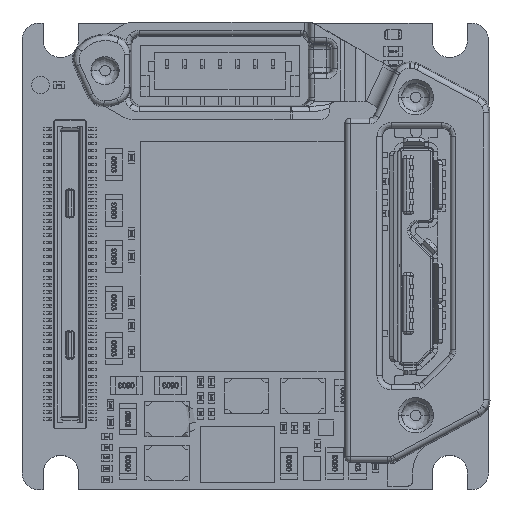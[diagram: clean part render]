
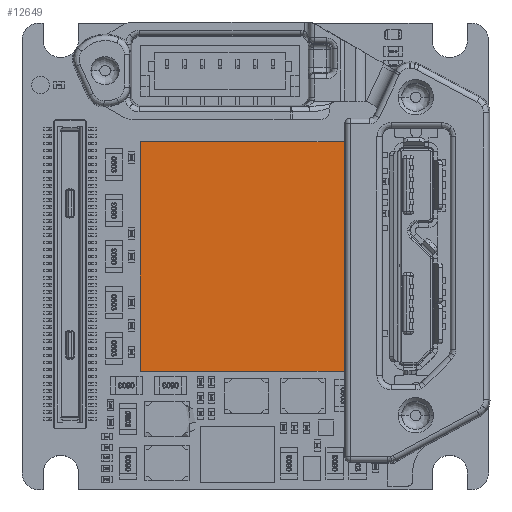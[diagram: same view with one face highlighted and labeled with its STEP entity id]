
A CAD part, top view. The second image highlights one B-rep face of the part: STEP entity #12649.
In plain terms, the highlighted planar face has unit normal (0, 0, 1).
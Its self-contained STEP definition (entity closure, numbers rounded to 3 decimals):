
#12649 = ADVANCED_FACE ( 'NONE', ( #227253 ), #392070, .F. ) ;
#30281 = VECTOR ( 'NONE', #44040, 1000. ) ;
#32700 = ORIENTED_EDGE ( 'NONE', *, *, #409177, .F. ) ;
#44040 = DIRECTION ( 'NONE',  ( 1., 0., 0. ) ) ;
#61608 = VECTOR ( 'NONE', #515434, 1000. ) ;
#62859 = CARTESIAN_POINT ( 'NONE',  ( 0., 0., 6.162 ) ) ;
#103612 = DIRECTION ( 'NONE',  ( 0., -1., 0. ) ) ;
#116715 = EDGE_LOOP ( 'NONE', ( #617490, #234558, #32700, #200936 ) ) ;
#117584 = DIRECTION ( 'NONE',  ( 0., -1., 0. ) ) ;
#189974 = VERTEX_POINT ( 'NONE', #541581 ) ;
#200936 = ORIENTED_EDGE ( 'NONE', *, *, #692283, .F. ) ;
#201432 = LINE ( 'NONE', #369668, #236985 ) ;
#220031 = CARTESIAN_POINT ( 'NONE',  ( 6.5, -6.5, 6.162 ) ) ;
#227253 = FACE_OUTER_BOUND ( 'NONE', #116715, .T. ) ;
#234558 = ORIENTED_EDGE ( 'NONE', *, *, #307865, .F. ) ;
#236985 = VECTOR ( 'NONE', #325659, 1000. ) ;
#274260 = LINE ( 'NONE', #720518, #30281 ) ;
#307865 = EDGE_CURVE ( 'NONE', #353649, #484055, #337572, .T. ) ;
#325659 = DIRECTION ( 'NONE',  ( 0., 1., 0. ) ) ;
#337572 = LINE ( 'NONE', #663171, #578874 ) ;
#350773 = CARTESIAN_POINT ( 'NONE',  ( 6.5, -6.5, 6.162 ) ) ;
#353649 = VERTEX_POINT ( 'NONE', #583999 ) ;
#364899 = VERTEX_POINT ( 'NONE', #522385 ) ;
#369668 = CARTESIAN_POINT ( 'NONE',  ( -6.5, -6.5, 6.162 ) ) ;
#392070 = PLANE ( 'NONE',  #446892 ) ;
#409177 = EDGE_CURVE ( 'NONE', #189974, #353649, #274260, .T. ) ;
#446892 = AXIS2_PLACEMENT_3D ( 'NONE', #62859, #549396, #117584 ) ;
#472324 = EDGE_CURVE ( 'NONE', #484055, #364899, #621618, .T. ) ;
#484055 = VERTEX_POINT ( 'NONE', #220031 ) ;
#515434 = DIRECTION ( 'NONE',  ( -1., 0., 0. ) ) ;
#522385 = CARTESIAN_POINT ( 'NONE',  ( -6.5, -6.5, 6.162 ) ) ;
#541581 = CARTESIAN_POINT ( 'NONE',  ( -6.5, 6.5, 6.162 ) ) ;
#549396 = DIRECTION ( 'NONE',  ( 0., 0., -1. ) ) ;
#578874 = VECTOR ( 'NONE', #103612, 1000. ) ;
#583999 = CARTESIAN_POINT ( 'NONE',  ( 6.5, 6.5, 6.162 ) ) ;
#617490 = ORIENTED_EDGE ( 'NONE', *, *, #472324, .F. ) ;
#621618 = LINE ( 'NONE', #350773, #61608 ) ;
#663171 = CARTESIAN_POINT ( 'NONE',  ( 6.5, 6.5, 6.162 ) ) ;
#692283 = EDGE_CURVE ( 'NONE', #364899, #189974, #201432, .T. ) ;
#720518 = CARTESIAN_POINT ( 'NONE',  ( -6.5, 6.5, 6.162 ) ) ;
